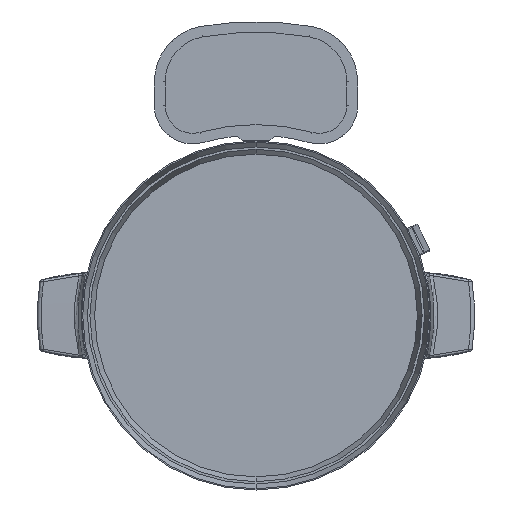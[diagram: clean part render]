
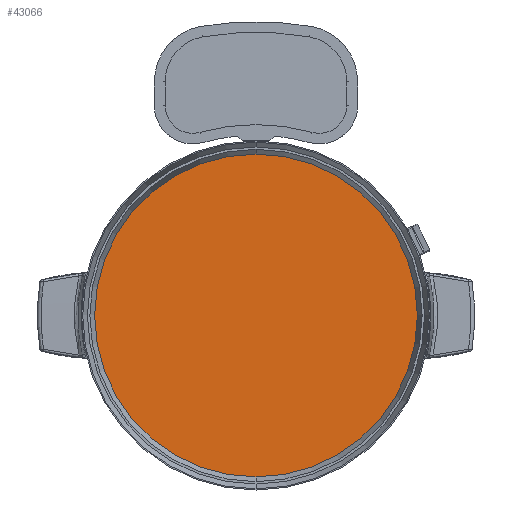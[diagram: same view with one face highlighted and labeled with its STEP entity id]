
A CAD part, front view. The second image highlights one B-rep face of the part: STEP entity #43066.
In plain terms, the highlighted planar face has unit normal (0, -1, 0).
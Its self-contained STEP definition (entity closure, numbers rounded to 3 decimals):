
#2795 = CARTESIAN_POINT ( 'NONE',  ( 0., 20., 0. ) ) ;
#4403 = AXIS2_PLACEMENT_3D ( 'NONE', #54472, #60308, #65801 ) ;
#13112 = FACE_OUTER_BOUND ( 'NONE', #69322, .T. ) ;
#18423 = CIRCLE ( 'NONE', #4403, 135. ) ;
#18953 = CARTESIAN_POINT ( 'NONE',  ( 0., 20., -135. ) ) ;
#19187 = EDGE_CURVE ( 'NONE', #33367, #51192, #18423, .T. ) ;
#19261 = ORIENTED_EDGE ( 'NONE', *, *, #19187, .F. ) ;
#19655 = AXIS2_PLACEMENT_3D ( 'NONE', #2795, #47521, #26267 ) ;
#26267 = DIRECTION ( 'NONE',  ( 0., 0., 1. ) ) ;
#30239 = CIRCLE ( 'NONE', #19655, 135. ) ;
#33056 = DIRECTION ( 'NONE',  ( 0., -1., 0. ) ) ;
#33367 = VERTEX_POINT ( 'NONE', #41155 ) ;
#35464 = CARTESIAN_POINT ( 'NONE',  ( -135., 20., 0. ) ) ;
#37205 = ORIENTED_EDGE ( 'NONE', *, *, #44920, .F. ) ;
#41155 = CARTESIAN_POINT ( 'NONE',  ( 0., 20., 135. ) ) ;
#43066 = ADVANCED_FACE ( 'NONE', ( #13112 ), #67085, .T. ) ;
#44920 = EDGE_CURVE ( 'NONE', #51192, #33367, #30239, .T. ) ;
#47521 = DIRECTION ( 'NONE',  ( 0., 1., 0. ) ) ;
#51192 = VERTEX_POINT ( 'NONE', #18953 ) ;
#54472 = CARTESIAN_POINT ( 'NONE',  ( 0., 20., 0. ) ) ;
#60308 = DIRECTION ( 'NONE',  ( 0., 1., 0. ) ) ;
#65801 = DIRECTION ( 'NONE',  ( 0., 0., 1. ) ) ;
#66420 = AXIS2_PLACEMENT_3D ( 'NONE', #35464, #33056, #71852 ) ;
#67085 = PLANE ( 'NONE',  #66420 ) ;
#69322 = EDGE_LOOP ( 'NONE', ( #37205, #19261 ) ) ;
#71852 = DIRECTION ( 'NONE',  ( 0., 0., -1. ) ) ;
